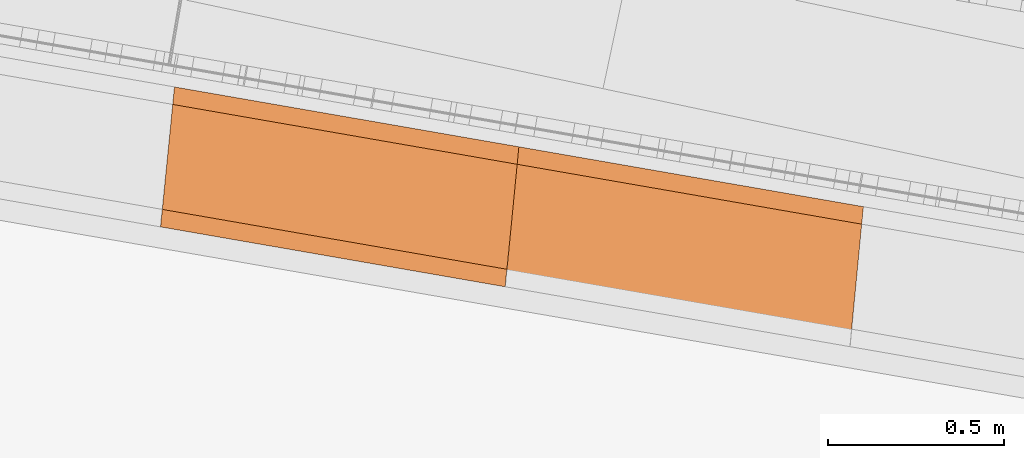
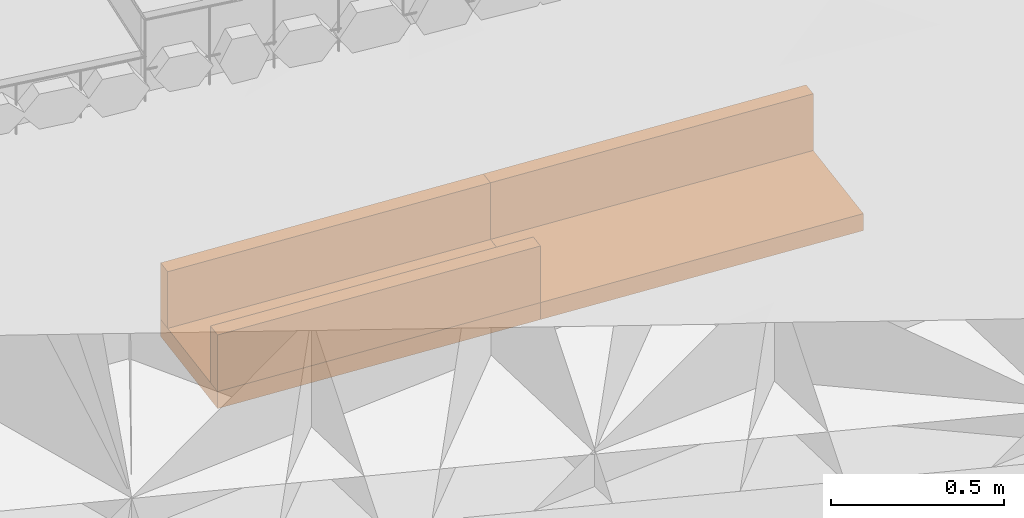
# Not in any storey, part 42 of 46: 5 proxies.
"""IFC4 model written with IfcOpenShell, lengths in metres."""

from ifc_helpers import new_model, si_unit, direction, frame, origin_with_axes, place, context, subcontext, project, spatial, polygons, material, element, save


model = new_model("IFC4")

# Units and contexts
model_context = context("Model", 3, precision=1e-05, world=origin_with_axes(), true_north=direction((0.0, 1.0)))
body_context = subcontext(model_context, "Body", "Model", "MODEL_VIEW")
ifc_project = project(units=[si_unit("VOLUMEUNIT", "CUBIC_METRE"), si_unit("LENGTHUNIT", "METRE"), si_unit("AREAUNIT", "SQUARE_METRE")], contexts=[model_context])

# Site
site_placement = place(None, origin_with_axes())
site = spatial("IfcSite", under=ifc_project, at=site_placement, Name="Lares · Rua das Mercês · artigo 4771")

# Proxies
ifc_material = material(Name="Caleiras · betão", Category="concrete")
proxy_1_placement = place(site_placement, frame((0.0, 0.0, 0.0), z_axis=(0.0, 0.0, 1.0), x_axis=(1.0, -1.03767253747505e-17, 0.0)))
element("IfcBuildingElementProxy", 1, at=proxy_1_placement, inside=site, material=ifc_material, Name="Acesso · canal lateral", ObjectType="Acesso · canal lateral", PredefinedType="USERDEFINED", context=body_context, shape_type="Tessellation", body=[
    polygons([(77.3363047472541, 6.65652840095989, 15.4214510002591), (77.375807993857, 7.05457298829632, 15.4214510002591), (78.3558896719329, 6.88426861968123, 15.4959090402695), (78.31638642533, 6.4862240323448, 15.4959090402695), (77.3363047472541, 6.65652840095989, 15.4814510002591), (77.375807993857, 7.05457298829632, 15.4814510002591), (78.3558896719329, 6.88426861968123, 15.5559090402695), (78.31638642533, 6.4862240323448, 15.5559090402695)], [[[4, 3, 2, 1]], [[5, 6, 7, 8]], [[1, 2, 6, 5]], [[2, 3, 7, 6]], [[3, 4, 8, 7]], [[4, 1, 5, 8]]]),
])
proxy_2_placement = place(site_placement, frame((0.0, 0.0, 0.0), z_axis=(0.0, 0.0, 1.0), x_axis=(1.0, -1.03767253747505e-17, 0.0)))
element("IfcBuildingElementProxy", 2, at=proxy_2_placement, inside=site, material=ifc_material, Name="Acesso · canal lateral", ObjectType="Acesso · canal lateral", PredefinedType="USERDEFINED", context=body_context, shape_type="Tessellation", body=[
    polygons([(77.3363047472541, 6.65652840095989, 15.4814510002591), (77.3412426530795, 6.70628397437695, 15.4814510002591), (78.3213243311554, 6.53597960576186, 15.5559090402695), (78.31638642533, 6.4862240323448, 15.5559090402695), (77.3363047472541, 6.65652840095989, 15.6814510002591), (77.3412426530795, 6.70628397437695, 15.6814510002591), (78.3213243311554, 6.53597960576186, 15.7559090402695), (78.31638642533, 6.4862240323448, 15.7559090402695)], [[[4, 3, 2, 1]], [[5, 6, 7, 8]], [[1, 2, 6, 5]], [[2, 3, 7, 6]], [[3, 4, 8, 7]], [[4, 1, 5, 8]]]),
])
proxy_3_placement = place(site_placement, frame((0.0, 0.0, 0.0), z_axis=(0.0, 0.0, 1.0), x_axis=(1.0, -1.03767253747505e-17, 0.0)))
element("IfcBuildingElementProxy", 3, at=proxy_3_placement, inside=site, material=ifc_material, Name="Acesso · canal lateral", ObjectType="Acesso · canal lateral", PredefinedType="USERDEFINED", context=body_context, shape_type="Tessellation", body=[
    polygons([(77.3708700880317, 7.00481741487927, 15.4814510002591), (77.375807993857, 7.05457298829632, 15.4814510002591), (78.3558896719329, 6.88426861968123, 15.5559090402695), (78.3509517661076, 6.83451304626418, 15.5559090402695), (77.3708700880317, 7.00481741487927, 15.6814510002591), (77.375807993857, 7.05457298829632, 15.6814510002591), (78.3558896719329, 6.88426861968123, 15.7559090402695), (78.3509517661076, 6.83451304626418, 15.7559090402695)], [[[4, 3, 2, 1]], [[5, 6, 7, 8]], [[1, 2, 6, 5]], [[2, 3, 7, 6]], [[3, 4, 8, 7]], [[4, 1, 5, 8]]]),
])
proxy_4_placement = place(site_placement, frame((0.0, 0.0, 0.0), z_axis=(0.0, 0.0, 1.0), x_axis=(1.0, -1.03767253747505e-17, 0.0)))
element("IfcBuildingElementProxy", 4, at=proxy_4_placement, inside=site, material=ifc_material, Name="Acesso · canal lateral", ObjectType="Acesso · canal lateral", PredefinedType="USERDEFINED", context=body_context, shape_type="Tessellation", body=[
    polygons([(78.3168915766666, 6.48617454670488, 15.4959090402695), (78.3553845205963, 6.88431810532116, 15.4959090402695), (79.3354427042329, 6.71401435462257, 15.5703670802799), (79.2969497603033, 6.3158707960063, 15.5703670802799), (78.3168915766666, 6.48617454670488, 15.5559090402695), (78.3553845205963, 6.88431810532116, 15.5559090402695), (79.3354427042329, 6.71401435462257, 15.6303670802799), (79.2969497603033, 6.3158707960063, 15.6303670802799)], [[[4, 3, 2, 1]], [[5, 6, 7, 8]], [[1, 2, 6, 5]], [[2, 3, 7, 6]], [[3, 4, 8, 7]], [[4, 1, 5, 8]]]),
])
proxy_5_placement = place(site_placement, frame((0.0, 0.0, 0.0), z_axis=(0.0, 0.0, 1.0), x_axis=(1.0, -1.03767253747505e-17, 0.0)))
element("IfcBuildingElementProxy", 5, at=proxy_5_placement, inside=site, material=ifc_material, Name="Acesso · canal lateral", ObjectType="Acesso · canal lateral", PredefinedType="USERDEFINED", context=body_context, shape_type="Tessellation", body=[
    polygons([(78.3505729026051, 6.83455016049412, 15.5559090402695), (78.3553845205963, 6.88431810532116, 15.5559090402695), (79.3354427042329, 6.71401435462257, 15.6303670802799), (79.3306310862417, 6.66424640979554, 15.6303670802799), (78.3505729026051, 6.83455016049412, 15.7559090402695), (78.3553845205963, 6.88431810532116, 15.7559090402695), (79.3354427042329, 6.71401435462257, 15.8303670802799), (79.3306310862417, 6.66424640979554, 15.8303670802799)], [[[4, 3, 2, 1]], [[5, 6, 7, 8]], [[1, 2, 6, 5]], [[2, 3, 7, 6]], [[3, 4, 8, 7]], [[4, 1, 5, 8]]]),
])

save(model, "model.ifc")
